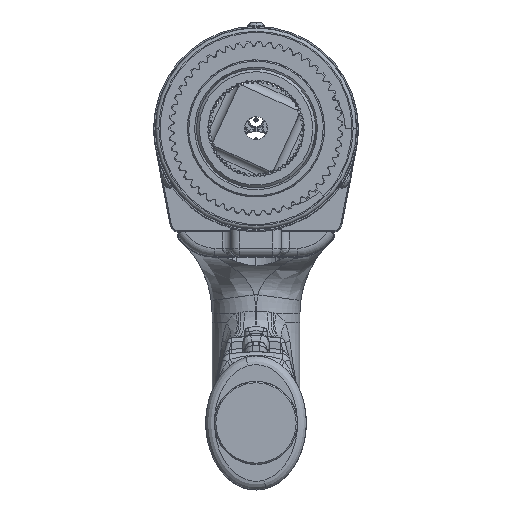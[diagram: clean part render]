
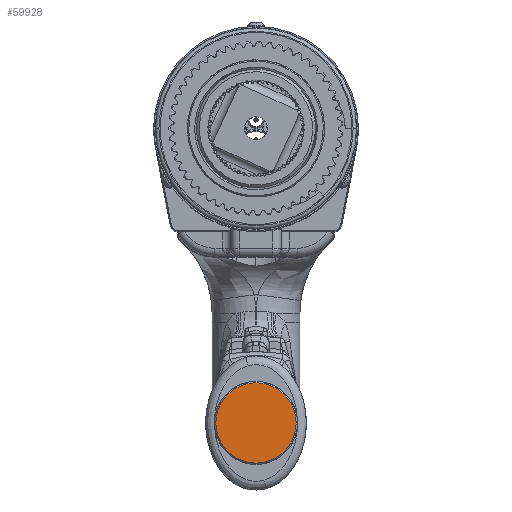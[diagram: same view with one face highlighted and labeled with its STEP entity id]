
A CAD part, top view. The second image highlights one B-rep face of the part: STEP entity #59928.
In plain terms, the highlighted planar face has unit normal (0, 0, 1).
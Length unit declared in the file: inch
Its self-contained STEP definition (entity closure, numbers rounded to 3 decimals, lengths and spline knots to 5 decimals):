
#7218 = VERTEX_POINT ( 'NONE', #126689 ) ;
#9338 = CARTESIAN_POINT ( 'NONE',  ( 0., -4.38938, 2.05527 ) ) ;
#13287 = AXIS2_PLACEMENT_3D ( 'NONE', #126616, #58645, #137993 ) ;
#20057 = DIRECTION ( 'NONE',  ( 0., 0., 1. ) ) ;
#20683 = DIRECTION ( 'NONE',  ( 1., 0., 0. ) ) ;
#22129 = AXIS2_PLACEMENT_3D ( 'NONE', #9338, #88844, #20683 ) ;
#34832 = ORIENTED_EDGE ( 'NONE', *, *, #55855, .T. ) ;
#35375 = ORIENTED_EDGE ( 'NONE', *, *, #52553, .T. ) ;
#42476 = EDGE_LOOP ( 'NONE', ( #34832, #35375 ) ) ;
#52553 = EDGE_CURVE ( 'NONE', #101895, #7218, #132035, .T. ) ;
#55855 = EDGE_CURVE ( 'NONE', #7218, #101895, #114810, .T. ) ;
#58645 = DIRECTION ( 'NONE',  ( 0., 0., 1. ) ) ;
#59928 = ADVANCED_FACE ( 'NONE', ( #76930 ), #64452, .T. ) ;
#64452 = PLANE ( 'NONE',  #116045 ) ;
#76930 = FACE_OUTER_BOUND ( 'NONE', #42476, .T. ) ;
#88221 = CARTESIAN_POINT ( 'NONE',  ( 0., -4.38938, 2.05527 ) ) ;
#88844 = DIRECTION ( 'NONE',  ( 0., 0., 1. ) ) ;
#99613 = DIRECTION ( 'NONE',  ( 1., 0., 0. ) ) ;
#101895 = VERTEX_POINT ( 'NONE', #103727 ) ;
#103727 = CARTESIAN_POINT ( 'NONE',  ( 0.5995, -4.38938, 2.05527 ) ) ;
#114810 = CIRCLE ( 'NONE', #22129, 0.5995 ) ;
#116045 = AXIS2_PLACEMENT_3D ( 'NONE', #88221, #20057, #99613 ) ;
#126616 = CARTESIAN_POINT ( 'NONE',  ( 0., -4.38938, 2.05527 ) ) ;
#126689 = CARTESIAN_POINT ( 'NONE',  ( -0.5995, -4.38938, 2.05527 ) ) ;
#132035 = CIRCLE ( 'NONE', #13287, 0.5995 ) ;
#137993 = DIRECTION ( 'NONE',  ( 1., 0., 0. ) ) ;
